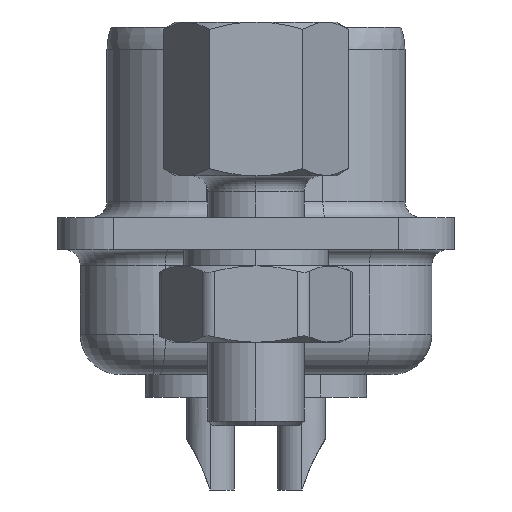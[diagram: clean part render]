
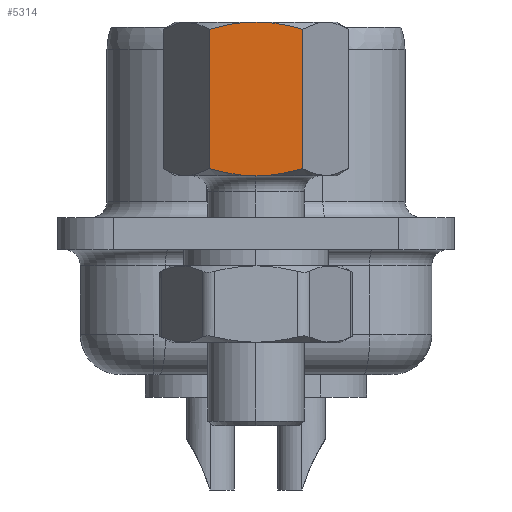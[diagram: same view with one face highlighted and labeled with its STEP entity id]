
A CAD part, left-side view. The second image highlights one B-rep face of the part: STEP entity #5314.
In plain terms, the highlighted planar face has unit normal (-1, 0, 0).
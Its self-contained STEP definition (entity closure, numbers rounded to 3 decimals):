
#183 = VERTEX_POINT ( 'NONE', #1199 ) ;
#197 = VERTEX_POINT ( 'NONE', #2070 ) ;
#873 = VERTEX_POINT ( 'NONE', #7927 ) ;
#1199 = CARTESIAN_POINT ( 'NONE',  ( -14.995, 1.457, 2.027 ) ) ;
#1217 = CARTESIAN_POINT ( 'NONE',  ( -14.995, 0.491, 1.821 ) ) ;
#1680 = DIRECTION ( 'NONE',  ( 1., 0., 0. ) ) ;
#1707 = AXIS2_PLACEMENT_3D ( 'NONE', #7644, #1680, #6648 ) ;
#1768 = EDGE_CURVE ( 'NONE', #197, #183, #12677, .T. ) ;
#1824 = CARTESIAN_POINT ( 'NONE',  ( -14.995, 0.977, 6.5 ) ) ;
#1870 = CARTESIAN_POINT ( 'NONE',  ( -14.995, 0.491, 6.579 ) ) ;
#1950 = DIRECTION ( 'NONE',  ( 0., 0., -1. ) ) ;
#2070 = CARTESIAN_POINT ( 'NONE',  ( -14.995, 0., 1.8 ) ) ;
#2160 = CARTESIAN_POINT ( 'NONE',  ( -14.995, 1.457, 6.373 ) ) ;
#2209 = CARTESIAN_POINT ( 'NONE',  ( -14.995, -1.221, 1.959 ) ) ;
#2345 = CARTESIAN_POINT ( 'NONE',  ( -14.995, 1.22, 1.958 ) ) ;
#2540 = CARTESIAN_POINT ( 'NONE',  ( -14.995, -1.457, 2.027 ) ) ;
#2712 = CARTESIAN_POINT ( 'NONE',  ( -14.995, 0., 6.6 ) ) ;
#2765 = CARTESIAN_POINT ( 'NONE',  ( -14.995, 1.22, 6.442 ) ) ;
#2806 = CARTESIAN_POINT ( 'NONE',  ( -14.995, 0.246, 6.6 ) ) ;
#3102 = CARTESIAN_POINT ( 'NONE',  ( -14.995, -1.457, 6.6 ) ) ;
#3180 = ORIENTED_EDGE ( 'NONE', *, *, #12897, .F. ) ;
#3266 = CARTESIAN_POINT ( 'NONE',  ( -14.995, -1.457, 2.027 ) ) ;
#3345 = CARTESIAN_POINT ( 'NONE',  ( -14.995, 1.457, 2.027 ) ) ;
#3889 = ORIENTED_EDGE ( 'NONE', *, *, #7280, .T. ) ;
#4158 = DIRECTION ( 'NONE',  ( 0., 0., -1. ) ) ;
#5220 = FACE_OUTER_BOUND ( 'NONE', #12802, .T. ) ;
#5314 = ADVANCED_FACE ( 'NONE', ( #5220 ), #11599, .F. ) ;
#5459 = VECTOR ( 'NONE', #4158, 1000. ) ;
#6239 = CARTESIAN_POINT ( 'NONE',  ( -14.995, -0.983, 1.902 ) ) ;
#6615 = VERTEX_POINT ( 'NONE', #2160 ) ;
#6648 = DIRECTION ( 'NONE',  ( 0., 0., 1. ) ) ;
#6716 = CARTESIAN_POINT ( 'NONE',  ( -14.995, 0., 6.6 ) ) ;
#6809 = VERTEX_POINT ( 'NONE', #2540 ) ;
#7082 = CARTESIAN_POINT ( 'NONE',  ( -14.995, -0.496, 6.578 ) ) ;
#7224 = CARTESIAN_POINT ( 'NONE',  ( -14.995, -0.246, 6.6 ) ) ;
#7247 = ORIENTED_EDGE ( 'NONE', *, *, #7839, .F. ) ;
#7280 = EDGE_CURVE ( 'NONE', #6615, #183, #9609, .T. ) ;
#7419 = VECTOR ( 'NONE', #1950, 1000. ) ;
#7644 = CARTESIAN_POINT ( 'NONE',  ( -14.995, -1.457, 6.6 ) ) ;
#7839 = EDGE_CURVE ( 'NONE', #873, #6809, #12053, .T. ) ;
#7927 = CARTESIAN_POINT ( 'NONE',  ( -14.995, -1.457, 6.373 ) ) ;
#8158 = CARTESIAN_POINT ( 'NONE',  ( -14.995, -0.246, 1.8 ) ) ;
#8652 = B_SPLINE_CURVE_WITH_KNOTS ( 'NONE', 3,
 ( #2712, #7224, #7082, #11320, #9790, #12169 ),
 .UNSPECIFIED., .F., .F.,
 ( 4, 2, 4 ),
 ( 0.004, 0.005, 0.006 ),
 .UNSPECIFIED. ) ;
#8665 = CARTESIAN_POINT ( 'NONE',  ( -14.995, 1.457, 6.373 ) ) ;
#8731 = B_SPLINE_CURVE_WITH_KNOTS ( 'NONE', 3,
 ( #8665, #2765, #1824, #1870, #2806, #6716 ),
 .UNSPECIFIED., .F., .F.,
 ( 4, 2, 4 ),
 ( 0.003, 0.003, 0.004 ),
 .UNSPECIFIED. ) ;
#8811 = B_SPLINE_CURVE_WITH_KNOTS ( 'NONE', 3,
 ( #3266, #2209, #6239, #10169, #8158, #9212 ),
 .UNSPECIFIED., .F., .F.,
 ( 4, 2, 4 ),
 ( 0.001, 0.002, 0.002 ),
 .UNSPECIFIED. ) ;
#9040 = ORIENTED_EDGE ( 'NONE', *, *, #9690, .F. ) ;
#9212 = CARTESIAN_POINT ( 'NONE',  ( -14.995, 0., 1.8 ) ) ;
#9373 = CARTESIAN_POINT ( 'NONE',  ( -14.995, 0., 1.8 ) ) ;
#9609 = LINE ( 'NONE', #12924, #7419 ) ;
#9690 = EDGE_CURVE ( 'NONE', #6809, #197, #8811, .T. ) ;
#9790 = CARTESIAN_POINT ( 'NONE',  ( -14.995, -1.221, 6.441 ) ) ;
#9897 = VERTEX_POINT ( 'NONE', #11126 ) ;
#10021 = ORIENTED_EDGE ( 'NONE', *, *, #10297, .F. ) ;
#10169 = CARTESIAN_POINT ( 'NONE',  ( -14.995, -0.496, 1.822 ) ) ;
#10251 = CARTESIAN_POINT ( 'NONE',  ( -14.995, 0.246, 1.8 ) ) ;
#10297 = EDGE_CURVE ( 'NONE', #6615, #9897, #8731, .T. ) ;
#11126 = CARTESIAN_POINT ( 'NONE',  ( -14.995, 0., 6.6 ) ) ;
#11320 = CARTESIAN_POINT ( 'NONE',  ( -14.995, -0.983, 6.498 ) ) ;
#11599 = PLANE ( 'NONE',  #1707 ) ;
#11781 = ORIENTED_EDGE ( 'NONE', *, *, #1768, .F. ) ;
#12053 = LINE ( 'NONE', #3102, #5459 ) ;
#12169 = CARTESIAN_POINT ( 'NONE',  ( -14.995, -1.457, 6.373 ) ) ;
#12376 = CARTESIAN_POINT ( 'NONE',  ( -14.995, 0.977, 1.9 ) ) ;
#12677 = B_SPLINE_CURVE_WITH_KNOTS ( 'NONE', 3,
 ( #9373, #10251, #1217, #12376, #2345, #3345 ),
 .UNSPECIFIED., .F., .F.,
 ( 4, 2, 4 ),
 ( 0.002, 0.003, 0.004 ),
 .UNSPECIFIED. ) ;
#12802 = EDGE_LOOP ( 'NONE', ( #9040, #7247, #3180, #10021, #3889, #11781 ) ) ;
#12897 = EDGE_CURVE ( 'NONE', #9897, #873, #8652, .T. ) ;
#12924 = CARTESIAN_POINT ( 'NONE',  ( -14.995, 1.457, 6.6 ) ) ;
